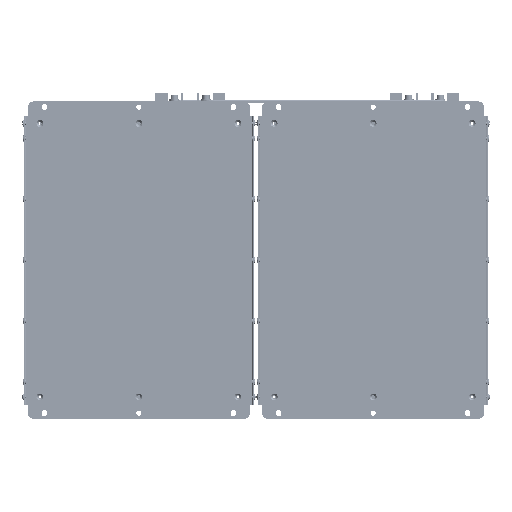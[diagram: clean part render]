
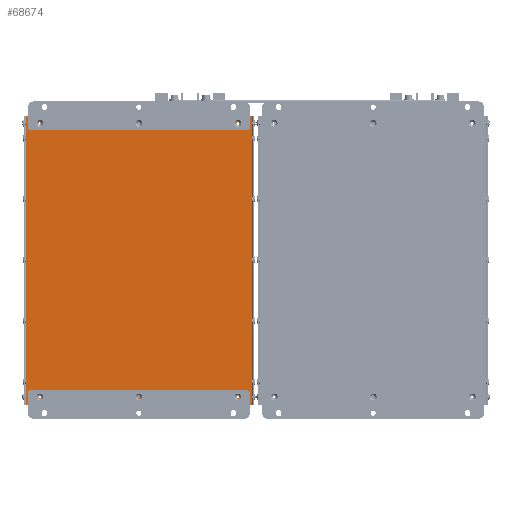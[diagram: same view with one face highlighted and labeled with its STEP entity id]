
A CAD part, front view. The second image highlights one B-rep face of the part: STEP entity #68674.
In plain terms, the highlighted planar face has unit normal (0, -1, 0).
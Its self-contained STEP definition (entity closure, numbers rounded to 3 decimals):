
#5332=FACE_BOUND('',#11589,.T.);
#5333=FACE_BOUND('',#11590,.T.);
#5334=FACE_BOUND('',#11591,.T.);
#5335=FACE_BOUND('',#11592,.T.);
#5336=FACE_BOUND('',#11593,.T.);
#5337=FACE_BOUND('',#11594,.T.);
#5849=PLANE('',#73466);
#7708=FACE_OUTER_BOUND('',#11588,.T.);
#11588=EDGE_LOOP('',(#47785,#47786,#47787,#47788));
#11589=EDGE_LOOP('',(#47789));
#11590=EDGE_LOOP('',(#47790));
#11591=EDGE_LOOP('',(#47791));
#11592=EDGE_LOOP('',(#47792));
#11593=EDGE_LOOP('',(#47793));
#11594=EDGE_LOOP('',(#47794));
#15951=LINE('',#93531,#22006);
#16029=LINE('',#93813,#22084);
#16030=LINE('',#93815,#22085);
#16031=LINE('',#93816,#22086);
#22006=VECTOR('',#78494,10.);
#22084=VECTOR('',#78700,10.);
#22085=VECTOR('',#78701,10.);
#22086=VECTOR('',#78702,10.);
#28162=CIRCLE('',#73467,2.);
#28163=CIRCLE('',#73468,2.);
#28164=CIRCLE('',#73469,2.);
#28165=CIRCLE('',#73470,2.);
#28166=CIRCLE('',#73471,2.);
#28167=CIRCLE('',#73472,2.);
#29820=VERTEX_POINT('',#93529);
#29821=VERTEX_POINT('',#93530);
#29961=VERTEX_POINT('',#93812);
#29962=VERTEX_POINT('',#93814);
#29963=VERTEX_POINT('',#93817);
#29964=VERTEX_POINT('',#93819);
#29965=VERTEX_POINT('',#93821);
#29966=VERTEX_POINT('',#93823);
#29967=VERTEX_POINT('',#93825);
#29968=VERTEX_POINT('',#93827);
#36913=EDGE_CURVE('',#29820,#29821,#15951,.T.);
#37054=EDGE_CURVE('',#29961,#29821,#16029,.T.);
#37055=EDGE_CURVE('',#29962,#29820,#16030,.T.);
#37056=EDGE_CURVE('',#29962,#29961,#16031,.T.);
#37057=EDGE_CURVE('',#29963,#29963,#28162,.T.);
#37058=EDGE_CURVE('',#29964,#29964,#28163,.T.);
#37059=EDGE_CURVE('',#29965,#29965,#28164,.T.);
#37060=EDGE_CURVE('',#29966,#29966,#28165,.T.);
#37061=EDGE_CURVE('',#29967,#29967,#28166,.T.);
#37062=EDGE_CURVE('',#29968,#29968,#28167,.T.);
#47785=ORIENTED_EDGE('',*,*,#37054,.T.);
#47786=ORIENTED_EDGE('',*,*,#36913,.F.);
#47787=ORIENTED_EDGE('',*,*,#37055,.F.);
#47788=ORIENTED_EDGE('',*,*,#37056,.T.);
#47789=ORIENTED_EDGE('',*,*,#37057,.T.);
#47790=ORIENTED_EDGE('',*,*,#37058,.T.);
#47791=ORIENTED_EDGE('',*,*,#37059,.T.);
#47792=ORIENTED_EDGE('',*,*,#37060,.T.);
#47793=ORIENTED_EDGE('',*,*,#37061,.T.);
#47794=ORIENTED_EDGE('',*,*,#37062,.T.);
#68674=ADVANCED_FACE('',(#7708,#5332,#5333,#5334,#5335,#5336,#5337),#5849,
 .T.);
#73466=AXIS2_PLACEMENT_3D('',#93811,#78698,#78699);
#73467=AXIS2_PLACEMENT_3D('',#93818,#78703,#78704);
#73468=AXIS2_PLACEMENT_3D('',#93820,#78705,#78706);
#73469=AXIS2_PLACEMENT_3D('',#93822,#78707,#78708);
#73470=AXIS2_PLACEMENT_3D('',#93824,#78709,#78710);
#73471=AXIS2_PLACEMENT_3D('',#93826,#78711,#78712);
#73472=AXIS2_PLACEMENT_3D('',#93828,#78713,#78714);
#78494=DIRECTION('',(1.,0.,0.));
#78698=DIRECTION('center_axis',(0.,-1.,0.));
#78699=DIRECTION('ref_axis',(1.,0.,0.));
#78700=DIRECTION('',(0.,0.,1.));
#78701=DIRECTION('',(0.,0.,1.));
#78702=DIRECTION('',(1.,0.,0.));
#78703=DIRECTION('center_axis',(0.,1.,0.));
#78704=DIRECTION('ref_axis',(-1.,0.,0.));
#78705=DIRECTION('center_axis',(0.,1.,0.));
#78706=DIRECTION('ref_axis',(-1.,0.,0.));
#78707=DIRECTION('center_axis',(0.,1.,0.));
#78708=DIRECTION('ref_axis',(-1.,0.,0.));
#78709=DIRECTION('center_axis',(0.,1.,0.));
#78710=DIRECTION('ref_axis',(-1.,0.,0.));
#78711=DIRECTION('center_axis',(0.,1.,0.));
#78712=DIRECTION('ref_axis',(-1.,0.,0.));
#78713=DIRECTION('center_axis',(0.,1.,0.));
#78714=DIRECTION('ref_axis',(-1.,0.,0.));
#93529=CARTESIAN_POINT('',(13.932,14.927,1.2));
#93530=CARTESIAN_POINT('',(313.532,14.927,1.2));
#93531=CARTESIAN_POINT('',(13.932,14.927,1.2));
#93811=CARTESIAN_POINT('Origin',(13.932,14.927,0.));
#93812=CARTESIAN_POINT('',(313.532,14.927,-380.8));
#93813=CARTESIAN_POINT('',(313.532,14.927,0.));
#93814=CARTESIAN_POINT('',(13.932,14.927,-380.8));
#93815=CARTESIAN_POINT('',(13.932,14.927,0.));
#93816=CARTESIAN_POINT('',(13.932,14.927,-380.8));
#93817=CARTESIAN_POINT('',(165.732,14.927,-370.8));
#93818=CARTESIAN_POINT('Origin',(163.732,14.927,-370.8));
#93819=CARTESIAN_POINT('',(296.732,14.927,-370.8));
#93820=CARTESIAN_POINT('Origin',(294.732,14.927,-370.8));
#93821=CARTESIAN_POINT('',(34.732,14.927,-370.8));
#93822=CARTESIAN_POINT('Origin',(32.732,14.927,-370.8));
#93823=CARTESIAN_POINT('',(34.732,14.927,-8.8));
#93824=CARTESIAN_POINT('Origin',(32.732,14.927,-8.8));
#93825=CARTESIAN_POINT('',(165.732,14.927,-8.8));
#93826=CARTESIAN_POINT('Origin',(163.732,14.927,-8.8));
#93827=CARTESIAN_POINT('',(296.732,14.927,-8.8));
#93828=CARTESIAN_POINT('Origin',(294.732,14.927,-8.8));
